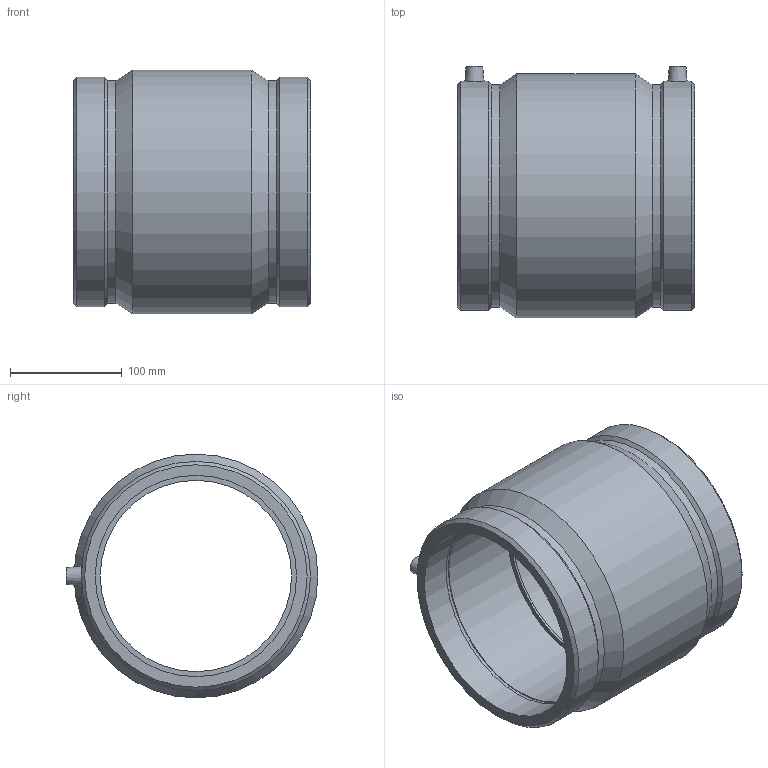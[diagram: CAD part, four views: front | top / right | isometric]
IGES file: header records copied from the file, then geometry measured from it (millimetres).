
Global section: file name: 490104180N.ipt; native system: Autodesk Inventor 2015; preprocessor: unknown; author: KIM; date: 20190124.130051; units: millimetre
Bounding box: 212 x 225 x 218 mm (x, y, z)
Volume: 2057447.9 mm3; surface area: 287029.4 mm2
Topology: 1 solids, 1 shells, 36 faces, 80 edges, 54 vertices
Faces by surface type: plane 12, revolution 9, cone 8, cylinder 7
Full cylindrical faces by diameter (mm): 4 x2, 198.772 x2, 204.92 x2, 218 x1
